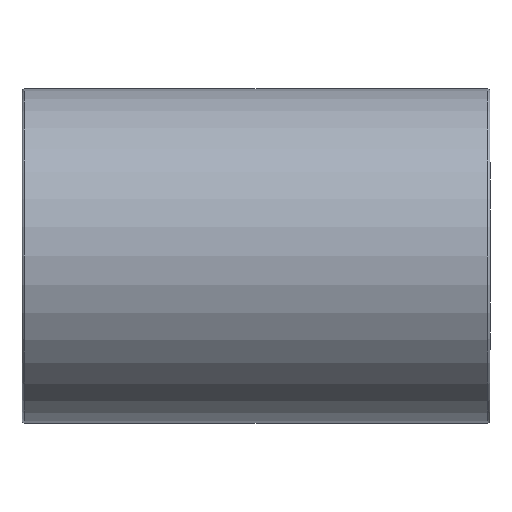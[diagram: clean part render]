
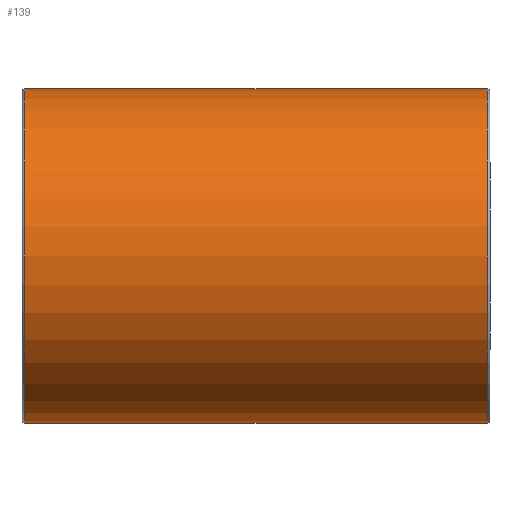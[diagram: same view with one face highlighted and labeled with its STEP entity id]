
A CAD part, front view. The second image highlights one B-rep face of the part: STEP entity #139.
In plain terms, the highlighted cylindrical face has radius 12.5 mm (diameter 25 mm), a full revolution.
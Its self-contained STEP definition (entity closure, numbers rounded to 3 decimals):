
#16=CYLINDRICAL_SURFACE('',#158,12.5);
#27=FACE_BOUND('',#56,.T.);
#39=FACE_OUTER_BOUND('',#55,.T.);
#55=EDGE_LOOP('',(#115));
#56=EDGE_LOOP('',(#116));
#75=CIRCLE('',#157,12.5);
#76=CIRCLE('',#159,12.5);
#87=VERTEX_POINT('',#236);
#88=VERTEX_POINT('',#239);
#99=EDGE_CURVE('',#87,#87,#75,.T.);
#100=EDGE_CURVE('',#88,#88,#76,.T.);
#115=ORIENTED_EDGE('',*,*,#100,.F.);
#116=ORIENTED_EDGE('',*,*,#99,.F.);
#139=ADVANCED_FACE('',(#39,#27),#16,.T.);
#157=AXIS2_PLACEMENT_3D('',#237,#191,#192);
#158=AXIS2_PLACEMENT_3D('',#238,#193,#194);
#159=AXIS2_PLACEMENT_3D('',#240,#195,#196);
#191=DIRECTION('center_axis',(-1.,0.,0.));
#192=DIRECTION('ref_axis',(0.,-1.,0.));
#193=DIRECTION('center_axis',(1.,0.,0.));
#194=DIRECTION('ref_axis',(0.,1.,0.));
#195=DIRECTION('center_axis',(1.,0.,0.));
#196=DIRECTION('ref_axis',(0.,-1.,0.));
#236=CARTESIAN_POINT('',(-17.3,12.5,0.));
#237=CARTESIAN_POINT('Origin',(-17.3,0.,0.));
#238=CARTESIAN_POINT('Origin',(0.,0.,
0.));
#239=CARTESIAN_POINT('',(17.3,12.5,0.));
#240=CARTESIAN_POINT('Origin',(17.3,0.,0.));
